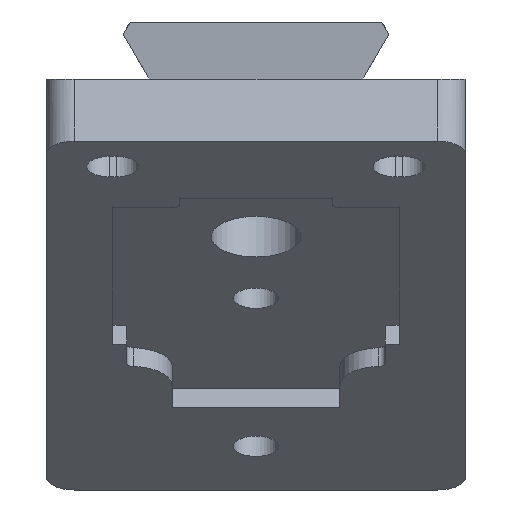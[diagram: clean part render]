
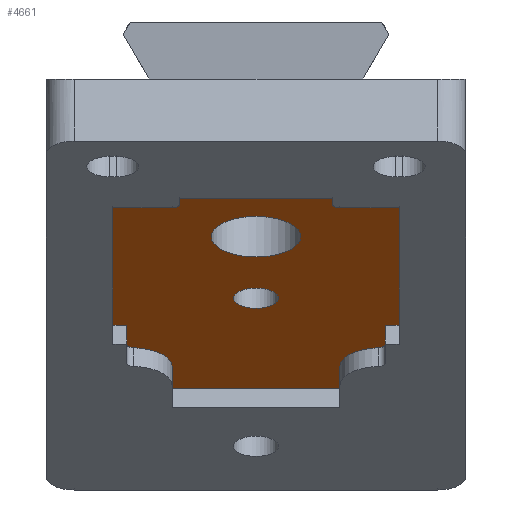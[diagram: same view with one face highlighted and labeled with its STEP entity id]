
A CAD part, left-side view. The second image highlights one B-rep face of the part: STEP entity #4661.
In plain terms, the highlighted planar face has unit normal (-0.454, 0, -0.891).
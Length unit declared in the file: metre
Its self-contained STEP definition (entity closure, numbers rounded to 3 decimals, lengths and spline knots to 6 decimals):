
#238=CIRCLE('',#4703,0.0016);
#240=CIRCLE('',#4706,0.0032);
#309=CIRCLE('',#4992,0.0005);
#310=CIRCLE('',#4993,0.003);
#311=CIRCLE('',#4994,0.003);
#312=CIRCLE('',#4995,0.0005);
#313=CIRCLE('',#4996,0.0005);
#314=CIRCLE('',#4997,0.0005);
#1593=ORIENTED_EDGE('',*,*,#2303,.T.);
#1594=ORIENTED_EDGE('',*,*,#2317,.T.);
#1595=ORIENTED_EDGE('',*,*,#2318,.T.);
#1596=ORIENTED_EDGE('',*,*,#2304,.T.);
#1597=ORIENTED_EDGE('',*,*,#2308,.T.);
#1598=ORIENTED_EDGE('',*,*,#2310,.F.);
#1599=ORIENTED_EDGE('',*,*,#2319,.T.);
#1600=ORIENTED_EDGE('',*,*,#2320,.T.);
#1601=ORIENTED_EDGE('',*,*,#2311,.F.);
#1602=ORIENTED_EDGE('',*,*,#2315,.F.);
#1603=ORIENTED_EDGE('',*,*,#2316,.T.);
#1604=ORIENTED_EDGE('',*,*,#2286,.F.);
#1605=ORIENTED_EDGE('',*,*,#2321,.T.);
#1606=ORIENTED_EDGE('',*,*,#2288,.T.);
#1607=ORIENTED_EDGE('',*,*,#2292,.T.);
#1608=ORIENTED_EDGE('',*,*,#2294,.F.);
#1609=ORIENTED_EDGE('',*,*,#2322,.T.);
#1610=ORIENTED_EDGE('',*,*,#2295,.F.);
#1611=ORIENTED_EDGE('',*,*,#2299,.F.);
#1612=ORIENTED_EDGE('',*,*,#2301,.F.);
#1613=ORIENTED_EDGE('',*,*,#1693,.F.);
#1614=ORIENTED_EDGE('',*,*,#1695,.F.);
#1693=EDGE_CURVE('',#2363,#2363,#238,.T.);
#1695=EDGE_CURVE('',#2365,#2365,#240,.T.);
#2286=EDGE_CURVE('',#2756,#2757,#3206,.T.);
#2288=EDGE_CURVE('',#2758,#2759,#3208,.T.);
#2292=EDGE_CURVE('',#2759,#2760,#3212,.T.);
#2294=EDGE_CURVE('',#2761,#2760,#3214,.T.);
#2295=EDGE_CURVE('',#2762,#2763,#3215,.T.);
#2299=EDGE_CURVE('',#2764,#2762,#3219,.T.);
#2301=EDGE_CURVE('',#2765,#2764,#3221,.T.);
#2303=EDGE_CURVE('',#2765,#2766,#3223,.T.);
#2304=EDGE_CURVE('',#2767,#2768,#3224,.T.);
#2308=EDGE_CURVE('',#2768,#2769,#3228,.T.);
#2310=EDGE_CURVE('',#2770,#2769,#3230,.T.);
#2311=EDGE_CURVE('',#2771,#2772,#3231,.T.);
#2315=EDGE_CURVE('',#2773,#2771,#3235,.T.);
#2316=EDGE_CURVE('',#2773,#2757,#3236,.T.);
#2317=EDGE_CURVE('',#2766,#2774,#309,.T.);
#2318=EDGE_CURVE('',#2774,#2767,#310,.F.);
#2319=EDGE_CURVE('',#2770,#2775,#311,.F.);
#2320=EDGE_CURVE('',#2775,#2772,#312,.T.);
#2321=EDGE_CURVE('',#2756,#2758,#313,.F.);
#2322=EDGE_CURVE('',#2761,#2763,#314,.F.);
#2363=VERTEX_POINT('',#6199);
#2365=VERTEX_POINT('',#6204);
#2756=VERTEX_POINT('',#7890);
#2757=VERTEX_POINT('',#7892);
#2758=VERTEX_POINT('',#7896);
#2759=VERTEX_POINT('',#7897);
#2760=VERTEX_POINT('',#7902);
#2761=VERTEX_POINT('',#7906);
#2762=VERTEX_POINT('',#7910);
#2763=VERTEX_POINT('',#7911);
#2764=VERTEX_POINT('',#7916);
#2765=VERTEX_POINT('',#7920);
#2766=VERTEX_POINT('',#7924);
#2767=VERTEX_POINT('',#7928);
#2768=VERTEX_POINT('',#7929);
#2769=VERTEX_POINT('',#7934);
#2770=VERTEX_POINT('',#7938);
#2771=VERTEX_POINT('',#7942);
#2772=VERTEX_POINT('',#7943);
#2773=VERTEX_POINT('',#7948);
#2774=VERTEX_POINT('',#7954);
#2775=VERTEX_POINT('',#7957);
#3206=LINE('',#7891,#3669);
#3208=LINE('',#7895,#3671);
#3212=LINE('',#7903,#3675);
#3214=LINE('',#7907,#3677);
#3215=LINE('',#7909,#3678);
#3219=LINE('',#7917,#3682);
#3221=LINE('',#7921,#3684);
#3223=LINE('',#7925,#3686);
#3224=LINE('',#7927,#3687);
#3228=LINE('',#7935,#3691);
#3230=LINE('',#7939,#3693);
#3231=LINE('',#7941,#3694);
#3235=LINE('',#7949,#3698);
#3236=LINE('',#7951,#3699);
#3669=VECTOR('',#6026,1.);
#3671=VECTOR('',#6030,1.);
#3675=VECTOR('',#6036,1.);
#3677=VECTOR('',#6040,1.);
#3678=VECTOR('',#6043,1.);
#3682=VECTOR('',#6049,1.);
#3684=VECTOR('',#6053,1.);
#3686=VECTOR('',#6057,1.);
#3687=VECTOR('',#6060,1.);
#3691=VECTOR('',#6066,1.);
#3693=VECTOR('',#6070,1.);
#3694=VECTOR('',#6073,1.);
#3698=VECTOR('',#6079,1.);
#3699=VECTOR('',#6082,1.);
#3974=EDGE_LOOP('',(#1593,#1594,#1595,#1596,#1597,#1598,#1599,#1600,#1601,
#1602,#1603,#1604,#1605,#1606,#1607,#1608,#1609,#1610,#1611,#1612));
#3975=EDGE_LOOP('',(#1613));
#3976=EDGE_LOOP('',(#1614));
#4259=FACE_BOUND('',#3974,.T.);
#4260=FACE_BOUND('',#3975,.T.);
#4261=FACE_BOUND('',#3976,.T.);
#4423=PLANE('',#4991);
#4661=ADVANCED_FACE('',(#4259,#4260,#4261),#4423,.T.);
#4703=AXIS2_PLACEMENT_3D('',#6198,#5068,#5069);
#4706=AXIS2_PLACEMENT_3D('',#6203,#5074,#5075);
#4991=AXIS2_PLACEMENT_3D('',#7952,#6083,#6084);
#4992=AXIS2_PLACEMENT_3D('',#7953,#6085,#6086);
#4993=AXIS2_PLACEMENT_3D('',#7955,#6087,#6088);
#4994=AXIS2_PLACEMENT_3D('',#7956,#6089,#6090);
#4995=AXIS2_PLACEMENT_3D('',#7958,#6091,#6092);
#4996=AXIS2_PLACEMENT_3D('',#7959,#6093,#6094);
#4997=AXIS2_PLACEMENT_3D('',#7960,#6095,#6096);
#5068=DIRECTION('',(-0.454,0.,-0.891));
#5069=DIRECTION('',(-0.891,0.,0.454));
#5074=DIRECTION('',(-0.454,0.,-0.891));
#5075=DIRECTION('',(-0.891,0.,0.454));
#6026=DIRECTION('',(0.,-1.,0.));
#6030=DIRECTION('',(-0.891,0.,0.454));
#6036=DIRECTION('',(0.,1.,0.));
#6040=DIRECTION('',(-0.891,0.,0.454));
#6043=DIRECTION('',(0.,-1.,0.));
#6049=DIRECTION('',(-0.891,0.,0.454));
#6053=DIRECTION('',(0.,1.,0.));
#6057=DIRECTION('',(0.891,0.,-0.454));
#6060=DIRECTION('',(0.891,0.,-0.454));
#6066=DIRECTION('',(0.,-1.,0.));
#6070=DIRECTION('',(0.891,0.,-0.454));
#6073=DIRECTION('',(0.891,0.,-0.454));
#6079=DIRECTION('',(0.,1.,0.));
#6082=DIRECTION('',(-0.891,0.,0.454));
#6083=DIRECTION('',(-0.454,0.,-0.891));
#6084=DIRECTION('',(0.891,0.,-0.454));
#6085=DIRECTION('',(-0.454,0.,-0.891));
#6086=DIRECTION('',(-0.891,0.,0.454));
#6087=DIRECTION('',(-0.454,0.,-0.891));
#6088=DIRECTION('',(-0.891,0.,0.454));
#6089=DIRECTION('',(-0.454,0.,-0.891));
#6090=DIRECTION('',(-0.891,0.,0.454));
#6091=DIRECTION('',(-0.454,0.,-0.891));
#6092=DIRECTION('',(-0.891,0.,0.454));
#6093=DIRECTION('',(-0.454,0.,-0.891));
#6094=DIRECTION('',(-0.891,0.,0.454));
#6095=DIRECTION('',(-0.454,0.,-0.891));
#6096=DIRECTION('',(-0.891,0.,0.454));
#6198=CARTESIAN_POINT('',(0.023103,0.,-0.015673));
#6199=CARTESIAN_POINT('',(0.021677,0.,-0.014946));
#6203=CARTESIAN_POINT('',(0.01446,0.,-0.011269));
#6204=CARTESIAN_POINT('',(0.011609,0.,-0.009816));
#7890=CARTESIAN_POINT('',(0.007777,-0.006,-0.007864));
#7891=CARTESIAN_POINT('',(0.007777,-0.007875,-0.007864));
#7892=CARTESIAN_POINT('',(0.007777,-0.01025,-0.007864));
#7895=CARTESIAN_POINT('',(0.007154,-0.0055,-0.007546));
#7896=CARTESIAN_POINT('',(0.007332,-0.0055,-0.007637));
#7897=CARTESIAN_POINT('',(0.00653,-0.0055,-0.007229));
#7902=CARTESIAN_POINT('',(0.00653,0.0055,-0.007229));
#7903=CARTESIAN_POINT('',(0.00653,0.,-0.007229));
#7906=CARTESIAN_POINT('',(0.007332,0.0055,-0.007637));
#7907=CARTESIAN_POINT('',(0.007154,0.0055,-0.007546));
#7909=CARTESIAN_POINT('',(0.007777,0.007875,-0.007864));
#7910=CARTESIAN_POINT('',(0.007777,0.01025,-0.007864));
#7911=CARTESIAN_POINT('',(0.007777,0.006,-0.007864));
#7916=CARTESIAN_POINT('',(0.026934,0.01025,-0.017625));
#7917=CARTESIAN_POINT('',(0.017356,0.01025,-0.012745));
#7920=CARTESIAN_POINT('',(0.026934,0.00925,-0.017625));
#7921=CARTESIAN_POINT('',(0.026934,0.00975,-0.017625));
#7924=CARTESIAN_POINT('',(0.029615,0.00925,-0.018991));
#7925=CARTESIAN_POINT('',(0.028493,0.00925,-0.018419));
#7927=CARTESIAN_POINT('',(0.032948,0.006,-0.020689));
#7928=CARTESIAN_POINT('',(0.032726,0.006,-0.020576));
#7929=CARTESIAN_POINT('',(0.035844,0.006,-0.022165));
#7934=CARTESIAN_POINT('',(0.035844,-0.006,-0.022165));
#7935=CARTESIAN_POINT('',(0.035844,0.,-0.022165));
#7938=CARTESIAN_POINT('',(0.032726,-0.006,-0.020576));
#7939=CARTESIAN_POINT('',(0.032948,-0.006,-0.020689));
#7941=CARTESIAN_POINT('',(0.028493,-0.00925,-0.018419));
#7942=CARTESIAN_POINT('',(0.026934,-0.00925,-0.017625));
#7943=CARTESIAN_POINT('',(0.029615,-0.00925,-0.018991));
#7948=CARTESIAN_POINT('',(0.026934,-0.01025,-0.017625));
#7949=CARTESIAN_POINT('',(0.026934,-0.00975,-0.017625));
#7951=CARTESIAN_POINT('',(0.020697,-0.01025,-0.014447));
#7952=CARTESIAN_POINT('',(0.022925,0.,-0.015582));
#7953=CARTESIAN_POINT('',(0.029615,0.00875,-0.018991));
#7954=CARTESIAN_POINT('',(0.030059,0.008786,-0.019217));
#7955=CARTESIAN_POINT('',(0.032726,0.009,-0.020576));
#7956=CARTESIAN_POINT('',(0.032726,-0.009,-0.020576));
#7957=CARTESIAN_POINT('',(0.030059,-0.008786,-0.019217));
#7958=CARTESIAN_POINT('',(0.029615,-0.00875,-0.018991));
#7959=CARTESIAN_POINT('',(0.007332,-0.006,-0.007637));
#7960=CARTESIAN_POINT('',(0.007332,0.006,-0.007637));
